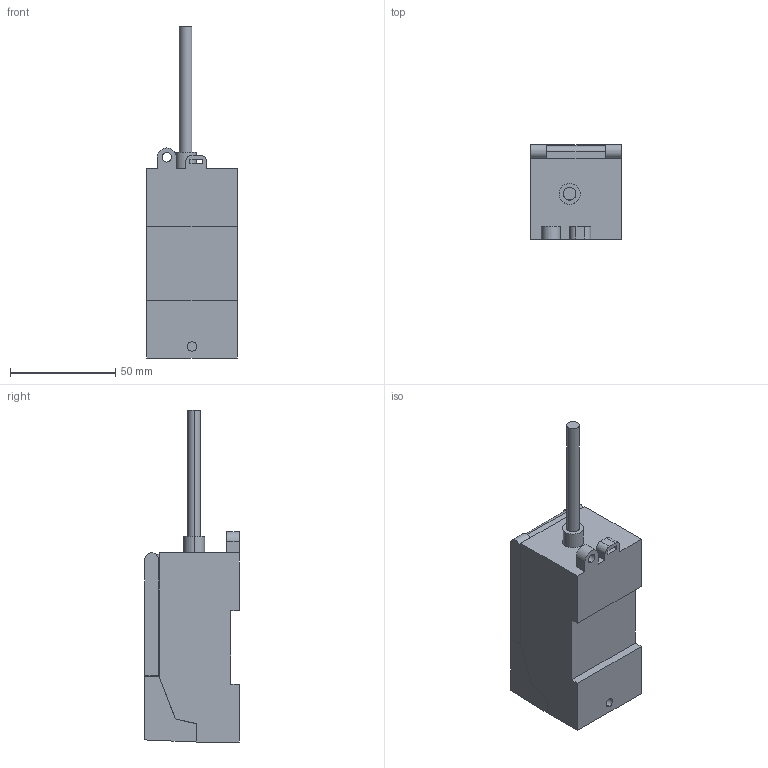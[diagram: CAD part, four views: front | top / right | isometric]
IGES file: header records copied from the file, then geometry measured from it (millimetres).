
Start section: SolidWorks IGES FILE using analytic representation for surfaces
Global section: file name: \\Intra-srv04\開発データ\CAD_Data\CAD委員会\3D電子ｶﾀﾛｸﾞ\製品カタログ（新）\0_IGES\HD-T1C.IGS,41HSolidWorks 2004; native system: by SolidWorks Corporation; preprocessor: Version 5.3; author: YK0651; date: 051101.204940; units: millimetre
Bounding box: 43 x 45 x 158 mm (x, y, z)
Volume: 131305.6 mm3; surface area: 35316.3 mm2
Topology: 3 solids, 3 shells, 109 faces, 279 edges, 186 vertices
Faces by surface type: plane 89, revolution 20
